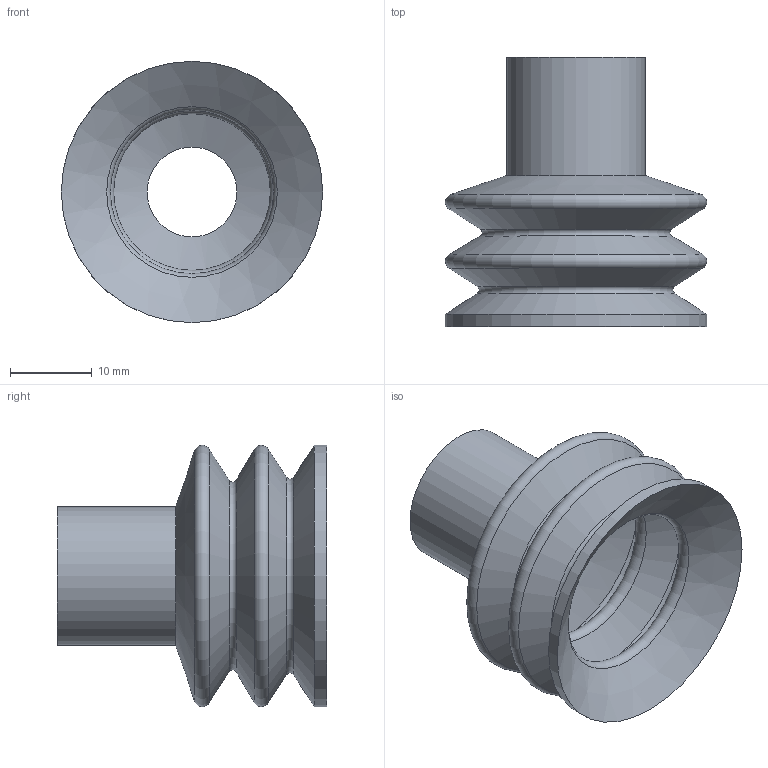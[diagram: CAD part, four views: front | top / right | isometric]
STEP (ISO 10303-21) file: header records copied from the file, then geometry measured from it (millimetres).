
FILE_DESCRIPTION (( 'STEP AP214' ), '1' );
FILE_NAME ('220.032.058.STEP', '2025-09-26T12:51:03', ( '' ), ( '' ), 'SwSTEP 2.0', 'SolidWorks 2025', '' );
FILE_SCHEMA (( 'AUTOMOTIVE_DESIGN' ));
Length unit declared in the file: millimetre
Products named in the file (1): 220.032.058
Bounding box: 32.02 x 33 x 32.02 mm (x, y, z)
Volume: 5180.8 mm3; surface area: 6708 mm2
Topology: 1 solids, 1 shells, 22 faces, 43 edges, 22 vertices
Faces by surface type: cone 10, torus 8, cylinder 3, plane 1
Full cylindrical faces by diameter (mm): 11 x1, 17 x1, 32 x1
Entity records: 471 total; most frequent: DIRECTION 90, CARTESIAN_POINT 67, AXIS2_PLACEMENT_3D 45, ORIENTED_EDGE 44, EDGE_LOOP 44, FACE_OUTER_BOUND 33, VERTEX_POINT 22, EDGE_CURVE 22
